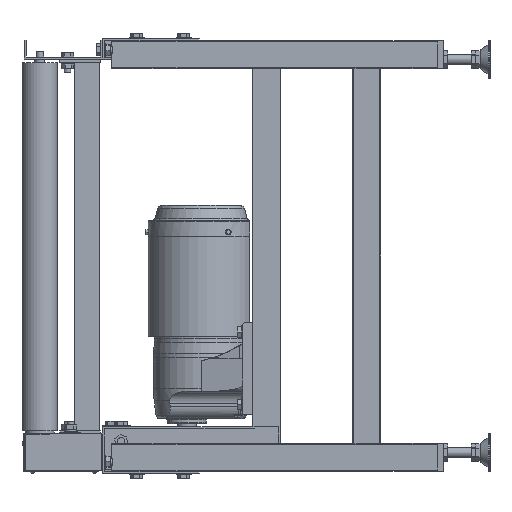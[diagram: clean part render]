
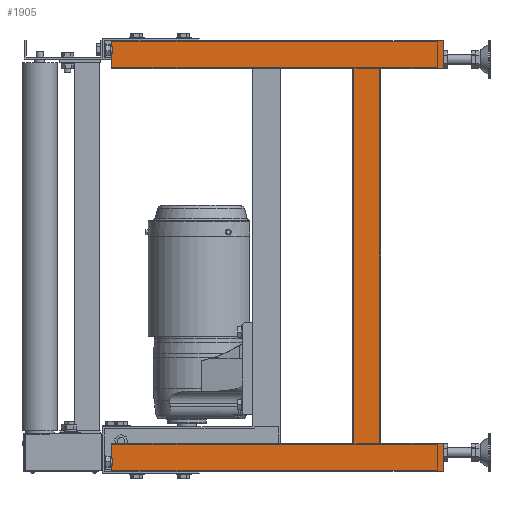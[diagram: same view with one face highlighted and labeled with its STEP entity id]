
A CAD part, left-side view. The second image highlights one B-rep face of the part: STEP entity #1905.
In plain terms, the highlighted planar face has unit normal (-1, 0, 0).
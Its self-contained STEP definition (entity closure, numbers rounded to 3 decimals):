
#1905=ADVANCED_FACE('',(#16119),#16118,.T.);
#16118=PLANE('',#27513);
#16119=FACE_OUTER_BOUND('',#27514,.T.);
#27510=CARTESIAN_POINT('',(62.5,-685.,-370.));
#27511=DIRECTION('',(-1.,0.,0.));
#27512=DIRECTION('',(0.,0.,1.));
#27513=AXIS2_PLACEMENT_3D('',#27510,#27511,#27512);
#27514=EDGE_LOOP('',(#37101,#37102,#37103,#37104,#37105,#37106,#37107,#37108,#37109,#37110,#37111,#37112,#37113,#37114,#37115,#37116,#37117,#37118));
#37101=ORIENTED_EDGE('',*,*,#42786,.T.);
#37102=ORIENTED_EDGE('',*,*,#42538,.T.);
#37103=ORIENTED_EDGE('',*,*,#42466,.T.);
#37104=ORIENTED_EDGE('',*,*,#42537,.T.);
#37105=ORIENTED_EDGE('',*,*,#42787,.F.);
#37106=ORIENTED_EDGE('',*,*,#42788,.F.);
#37107=ORIENTED_EDGE('',*,*,#42366,.F.);
#37108=ORIENTED_EDGE('',*,*,#42552,.T.);
#37109=ORIENTED_EDGE('',*,*,#42605,.T.);
#37110=ORIENTED_EDGE('',*,*,#42647,.F.);
#37111=ORIENTED_EDGE('',*,*,#42707,.F.);
#37112=ORIENTED_EDGE('',*,*,#42644,.F.);
#37113=ORIENTED_EDGE('',*,*,#42598,.F.);
#37114=ORIENTED_EDGE('',*,*,#42600,.F.);
#37115=ORIENTED_EDGE('',*,*,#42541,.T.);
#37116=ORIENTED_EDGE('',*,*,#42369,.T.);
#37117=ORIENTED_EDGE('',*,*,#42354,.F.);
#37118=ORIENTED_EDGE('',*,*,#42789,.T.);
#42354=EDGE_CURVE('',#64488,#64495,#64496,.T.);
#42366=EDGE_CURVE('',#64571,#64578,#64579,.T.);
#42369=EDGE_CURVE('',#64597,#64495,#64598,.T.);
#42466=EDGE_CURVE('',#65241,#65233,#65242,.T.);
#42537=EDGE_CURVE('',#65233,#65701,#65708,.T.);
#42538=EDGE_CURVE('',#65642,#65241,#65714,.T.);
#42541=EDGE_CURVE('',#65732,#64597,#65733,.T.);
#42552=EDGE_CURVE('',#64571,#65799,#65806,.T.);
#42598=EDGE_CURVE('',#66114,#66100,#66121,.T.);
#42600=EDGE_CURVE('',#65732,#66114,#66133,.T.);
#42605=EDGE_CURVE('',#65799,#66159,#66166,.T.);
#42644=EDGE_CURVE('',#66100,#66428,#66429,.T.);
#42647=EDGE_CURVE('',#66442,#66159,#66449,.T.);
#42707=EDGE_CURVE('',#66428,#66442,#66840,.T.);
#42786=EDGE_CURVE('',#67356,#65642,#67357,.T.);
#42787=EDGE_CURVE('',#67363,#65701,#67364,.T.);
#42788=EDGE_CURVE('',#64578,#67363,#67370,.T.);
#42789=EDGE_CURVE('',#64488,#67356,#67376,.T.);
#64488=VERTEX_POINT('',#87007);
#64495=VERTEX_POINT('',#87011);
#64496=LINE('',#87012,#87013);
#64571=VERTEX_POINT('',#87054);
#64578=VERTEX_POINT('',#87058);
#64579=LINE('',#87059,#87060);
#64597=VERTEX_POINT('',#87068);
#64598=LINE('',#87069,#87070);
#65233=VERTEX_POINT('',#87428);
#65241=VERTEX_POINT('',#87434);
#65242=LINE('',#87435,#87436);
#65642=VERTEX_POINT('',#87664);
#65701=VERTEX_POINT('',#87696);
#65708=LINE('',#87700,#87701);
#65714=LINE('',#87703,#87704);
#65732=VERTEX_POINT('',#87712);
#65733=LINE('',#87713,#87714);
#65799=VERTEX_POINT('',#87749);
#65806=LINE('',#87753,#87754);
#66100=VERTEX_POINT('',#87927);
#66114=VERTEX_POINT('',#87935);
#66121=LINE('',#87939,#87940);
#66133=LINE('',#87945,#87946);
#66159=VERTEX_POINT('',#87960);
#66166=LINE('',#87964,#87965);
#66428=VERTEX_POINT('',#88121);
#66429=LINE('',#88122,#88123);
#66442=VERTEX_POINT('',#88130);
#66449=LINE('',#88135,#88136);
#66840=LINE('',#88357,#88358);
#67356=VERTEX_POINT('',#88641);
#67357=LINE('',#88642,#88643);
#67363=VERTEX_POINT('',#88645);
#67364=LINE('',#88646,#88647);
#67370=LINE('',#88649,#88650);
#67376=LINE('',#88652,#88653);
#87007=CARTESIAN_POINT('',(62.5,-675.,285.));
#87011=CARTESIAN_POINT('',(62.5,-575.,285.));
#87012=CARTESIAN_POINT('',(62.5,-675.,285.));
#87013=VECTOR('',#87014,100.);
#87014=DIRECTION('',(0.,1.,0.));
#87054=CARTESIAN_POINT('',(62.5,-530.,-315.));
#87058=CARTESIAN_POINT('',(62.5,-530.,285.));
#87059=CARTESIAN_POINT('',(62.5,-530.,-315.));
#87060=VECTOR('',#87061,600.);
#87061=DIRECTION('',(0.,0.,1.));
#87068=CARTESIAN_POINT('',(62.5,-575.,-315.));
#87069=CARTESIAN_POINT('',(62.5,-575.,-315.));
#87070=VECTOR('',#87071,600.);
#87071=DIRECTION('',(0.,0.,1.));
#87428=CARTESIAN_POINT('',(62.5,-187.768,330.));
#87434=CARTESIAN_POINT('',(62.5,-199.548,330.));
#87435=CARTESIAN_POINT('',(62.5,-199.548,330.));
#87436=VECTOR('',#87437,11.78);
#87437=DIRECTION('',(0.,1.,0.));
#87664=CARTESIAN_POINT('',(62.5,-284.,330.));
#87696=CARTESIAN_POINT('',(62.5,-144.,330.));
#87700=CARTESIAN_POINT('',(62.5,-187.768,330.));
#87701=VECTOR('',#87702,43.768);
#87702=DIRECTION('',(0.,1.,0.));
#87703=CARTESIAN_POINT('',(62.5,-284.,330.));
#87704=VECTOR('',#87705,84.452);
#87705=DIRECTION('',(0.,1.,0.));
#87712=CARTESIAN_POINT('',(62.5,-675.,-315.));
#87713=CARTESIAN_POINT('',(62.5,-675.,-315.));
#87714=VECTOR('',#87715,100.);
#87715=DIRECTION('',(0.,1.,0.));
#87749=CARTESIAN_POINT('',(62.5,-144.,-315.));
#87753=CARTESIAN_POINT('',(62.5,-530.,-315.));
#87754=VECTOR('',#87755,386.);
#87755=DIRECTION('',(0.,1.,0.));
#87927=CARTESIAN_POINT('',(62.5,-284.,-360.));
#87935=CARTESIAN_POINT('',(62.5,-675.,-360.));
#87939=CARTESIAN_POINT('',(62.5,-675.,-360.));
#87940=VECTOR('',#87941,391.);
#87941=DIRECTION('',(0.,1.,0.));
#87945=CARTESIAN_POINT('',(62.5,-675.,-315.));
#87946=VECTOR('',#87947,45.);
#87947=DIRECTION('',(0.,0.,-1.));
#87960=CARTESIAN_POINT('',(62.5,-144.,-360.));
#87964=CARTESIAN_POINT('',(62.5,-144.,-315.));
#87965=VECTOR('',#87966,45.);
#87966=DIRECTION('',(0.,0.,-1.));
#88121=CARTESIAN_POINT('',(62.5,-199.548,-360.));
#88122=CARTESIAN_POINT('',(62.5,-284.,-360.));
#88123=VECTOR('',#88124,84.452);
#88124=DIRECTION('',(0.,1.,0.));
#88130=CARTESIAN_POINT('',(62.5,-187.768,-360.));
#88135=CARTESIAN_POINT('',(62.5,-187.768,-360.));
#88136=VECTOR('',#88137,43.768);
#88137=DIRECTION('',(0.,1.,0.));
#88357=CARTESIAN_POINT('',(62.5,-199.548,-360.));
#88358=VECTOR('',#88359,11.78);
#88359=DIRECTION('',(0.,1.,0.));
#88641=CARTESIAN_POINT('',(62.5,-675.,330.));
#88642=CARTESIAN_POINT('',(62.5,-675.,330.));
#88643=VECTOR('',#88644,391.);
#88644=DIRECTION('',(0.,1.,0.));
#88645=CARTESIAN_POINT('',(62.5,-144.,285.));
#88646=CARTESIAN_POINT('',(62.5,-144.,285.));
#88647=VECTOR('',#88648,45.);
#88648=DIRECTION('',(0.,0.,1.));
#88649=CARTESIAN_POINT('',(62.5,-530.,285.));
#88650=VECTOR('',#88651,386.);
#88651=DIRECTION('',(0.,1.,0.));
#88652=CARTESIAN_POINT('',(62.5,-675.,285.));
#88653=VECTOR('',#88654,45.);
#88654=DIRECTION('',(0.,0.,1.));
